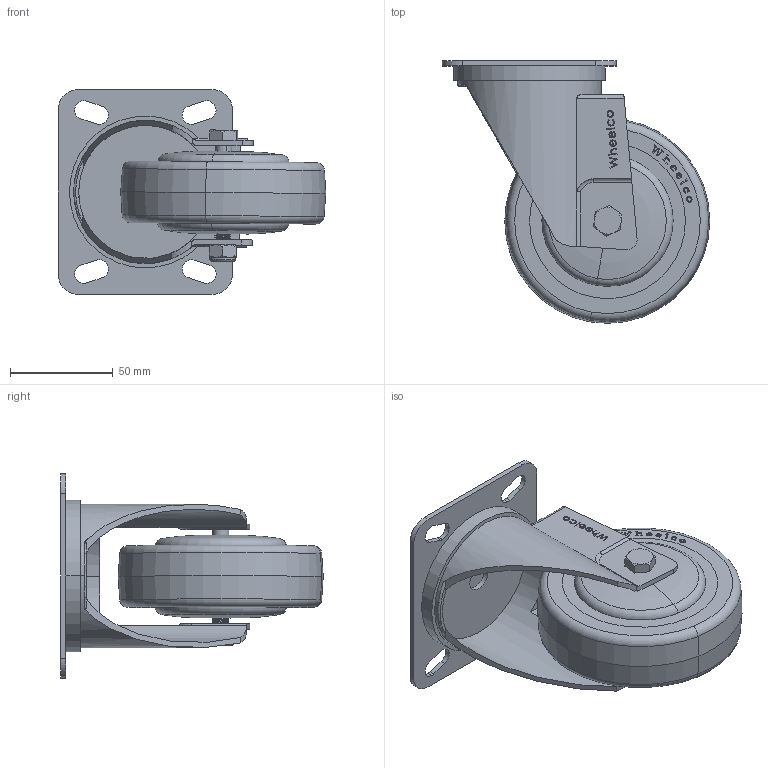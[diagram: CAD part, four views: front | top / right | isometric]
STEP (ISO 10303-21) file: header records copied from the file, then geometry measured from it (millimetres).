
FILE_DESCRIPTION (( 'STEP AP214' ), '1' );
FILE_NAME ('MDB100-P.step', '2024-01-21T22:13:37', ( '' ), ( '' ), 'SwSTEP 2.0', 'SolidWorks 2022', '' );
FILE_SCHEMA (( 'AUTOMOTIVE_DESIGN' ));
Length unit declared in the file: millimetre
Products named in the file (6): M8x55; M8Nyloc; 100X85 ANGLED; MDB100-P; MCB100; MS100-SP
Assembly tree (5 placements, depth 2):
  MDB100-P
    MS100-SP
    M8x55
    M8Nyloc
    MCB100
    100X85 ANGLED
Bounding box: 130.5 x 128 x 100 mm (x, y, z)
Volume: 319441.1 mm3; surface area: 78917.1 mm2
Topology: 5 solids, 5 shells, 436 faces, 1165 edges, 767 vertices
Faces by surface type: plane 173, cylinder 116, bspline 102, cone 24, torus 19, sphere 2
Entity records: 24318 total; most frequent: CARTESIAN_POINT 13887, ORIENTED_EDGE 2330, DIRECTION 1619, EDGE_CURVE 1165, VERTEX_POINT 767, LINE 619, VECTOR 619, AXIS2_PLACEMENT_3D 500
